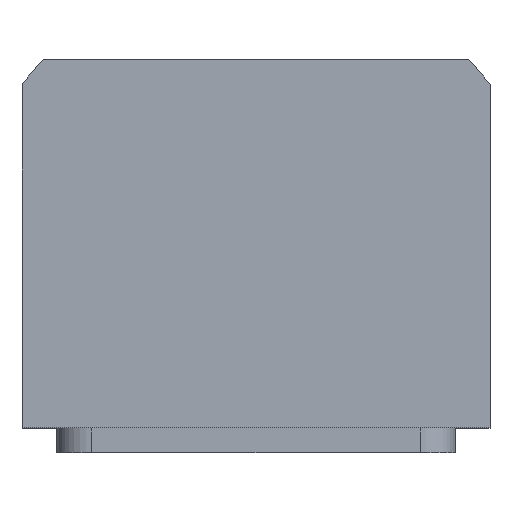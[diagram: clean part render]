
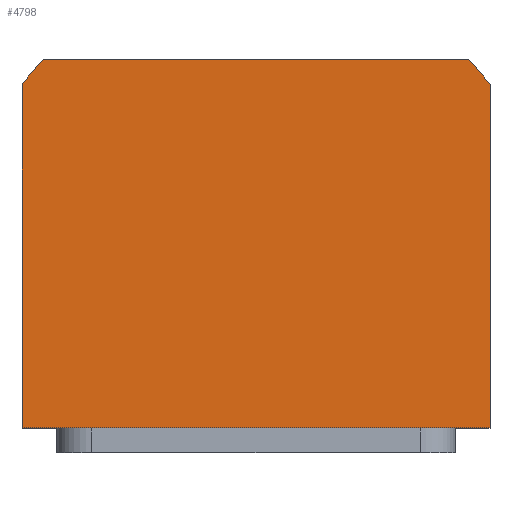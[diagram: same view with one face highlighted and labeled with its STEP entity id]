
A CAD part, top view. The second image highlights one B-rep face of the part: STEP entity #4798.
In plain terms, the highlighted planar face has unit normal (0, 0, 1).
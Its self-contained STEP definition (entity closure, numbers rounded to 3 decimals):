
#2335=PLANE('',#10562);
#2631=FACE_OUTER_BOUND('',#5582,.T.);
#2973=LINE('',#15153,#3768);
#3004=LINE('',#15843,#3799);
#3025=LINE('',#15911,#3820);
#3035=LINE('',#15938,#3830);
#3768=VECTOR('',#11038,1.);
#3799=VECTOR('',#11173,1.);
#3820=VECTOR('',#11224,1.);
#3830=VECTOR('',#11248,1.);
#4798=ADVANCED_FACE('',(#2631),#2335,.T.);
#5233=CIRCLE('',#10546,58.5);
#5235=CIRCLE('',#10552,58.5);
#5582=EDGE_LOOP('',(#6334,#6335,#6336,#6337,#6338,#6339));
#6334=ORIENTED_EDGE('',*,*,#9200,.T.);
#6335=ORIENTED_EDGE('',*,*,#9230,.T.);
#6336=ORIENTED_EDGE('',*,*,#9233,.T.);
#6337=ORIENTED_EDGE('',*,*,#9245,.T.);
#6338=ORIENTED_EDGE('',*,*,#9214,.T.);
#6339=ORIENTED_EDGE('',*,*,#9099,.T.);
#8299=VERTEX_POINT('',#15152);
#8300=VERTEX_POINT('',#15154);
#8392=VERTEX_POINT('',#15842);
#8403=VERTEX_POINT('',#15870);
#8414=VERTEX_POINT('',#15910);
#8416=VERTEX_POINT('',#15916);
#9099=EDGE_CURVE('',#8300,#8299,#2973,.T.);
#9200=EDGE_CURVE('',#8299,#8392,#3004,.T.);
#9214=EDGE_CURVE('',#8403,#8300,#5233,.T.);
#9230=EDGE_CURVE('',#8392,#8414,#3025,.T.);
#9233=EDGE_CURVE('',#8414,#8416,#5235,.T.);
#9245=EDGE_CURVE('',#8416,#8403,#3035,.T.);
#10546=AXIS2_PLACEMENT_3D('',#15873,#11202,#11203);
#10552=AXIS2_PLACEMENT_3D('',#15917,#11230,#11231);
#10562=AXIS2_PLACEMENT_3D('',#15948,#11261,#11262);
#11038=DIRECTION('',(0.,-1.,0.));
#11173=DIRECTION('',(1.,0.,0.));
#11202=DIRECTION('',(0.,0.,1.));
#11203=DIRECTION('',(1.,0.,0.));
#11224=DIRECTION('',(0.,1.,0.));
#11230=DIRECTION('',(0.,0.,1.));
#11231=DIRECTION('',(1.,0.,0.));
#11248=DIRECTION('',(-1.,0.,0.));
#11261=DIRECTION('',(0.,0.,1.));
#11262=DIRECTION('',(-1.,0.,0.));
#15152=CARTESIAN_POINT('',(-47.,-34.,42.5));
#15153=CARTESIAN_POINT('',(-47.,-34.,42.5));
#15154=CARTESIAN_POINT('',(-47.,34.832,42.5));
#15842=CARTESIAN_POINT('',(47.,-34.,42.5));
#15843=CARTESIAN_POINT('',(47.,-34.,42.5));
#15870=CARTESIAN_POINT('',(-42.688,40.,42.5));
#15873=CARTESIAN_POINT('',(0.,0.,42.5));
#15910=CARTESIAN_POINT('',(47.,34.832,42.5));
#15911=CARTESIAN_POINT('',(47.,34.832,42.5));
#15916=CARTESIAN_POINT('',(42.688,40.,42.5));
#15917=CARTESIAN_POINT('',(0.,0.,42.5));
#15938=CARTESIAN_POINT('',(-42.688,40.,42.5));
#15948=CARTESIAN_POINT('',(0.,0.,42.5));
